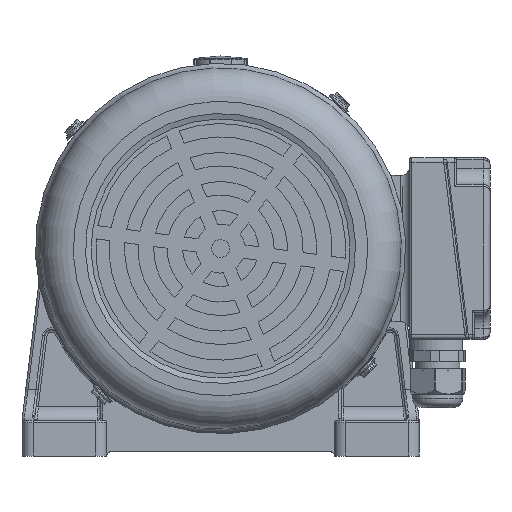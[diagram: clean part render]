
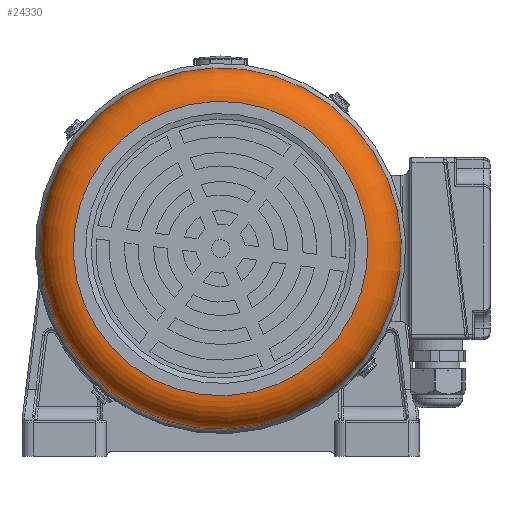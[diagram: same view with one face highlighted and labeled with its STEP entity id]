
A CAD part, left-side view. The second image highlights one B-rep face of the part: STEP entity #24330.
In plain terms, the highlighted toroidal (fillet/blend) face has major radius 66 mm and minor radius 15 mm.
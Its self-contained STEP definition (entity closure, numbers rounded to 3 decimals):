
#1018=TOROIDAL_SURFACE('',#86421,66.,15.);
#24330=ADVANCED_FACE('',(#30271,#30272),#1018,.T.);
#30271=FACE_BOUND('',#32719,.T.);
#30272=FACE_BOUND('',#32720,.T.);
#32719=EDGE_LOOP('',(#46202));
#32720=EDGE_LOOP('',(#46203));
#46202=ORIENTED_EDGE('',*,*,#73750,.T.);
#46203=ORIENTED_EDGE('',*,*,#73751,.F.);
#64218=VERTEX_POINT('',#137908);
#64219=VERTEX_POINT('',#137910);
#73750=EDGE_CURVE('',#64218,#64218,#81499,.T.);
#73751=EDGE_CURVE('',#64219,#64219,#81500,.T.);
#81499=CIRCLE('',#86419,66.);
#81500=CIRCLE('',#86420,81.);
#86419=AXIS2_PLACEMENT_3D('',#137907,#100409,#100410);
#86420=AXIS2_PLACEMENT_3D('',#137909,#100411,#100412);
#86421=AXIS2_PLACEMENT_3D('',#137911,#100413,#100414);
#100409=DIRECTION('',(1.,0.,0.));
#100410=DIRECTION('',(0.,0.609,-0.793));
#100411=DIRECTION('',(1.,0.,0.));
#100412=DIRECTION('',(0.,0.609,-0.793));
#100413=DIRECTION('',(1.,0.,0.));
#100414=DIRECTION('',(0.,0.609,-0.793));
#137907=CARTESIAN_POINT('',(890.896,718.768,-693.744));
#137908=CARTESIAN_POINT('',(890.896,758.946,-746.105));
#137909=CARTESIAN_POINT('',(905.896,718.768,-693.744));
#137910=CARTESIAN_POINT('',(905.896,768.078,-758.005));
#137911=CARTESIAN_POINT('',(905.896,718.768,-693.744));
